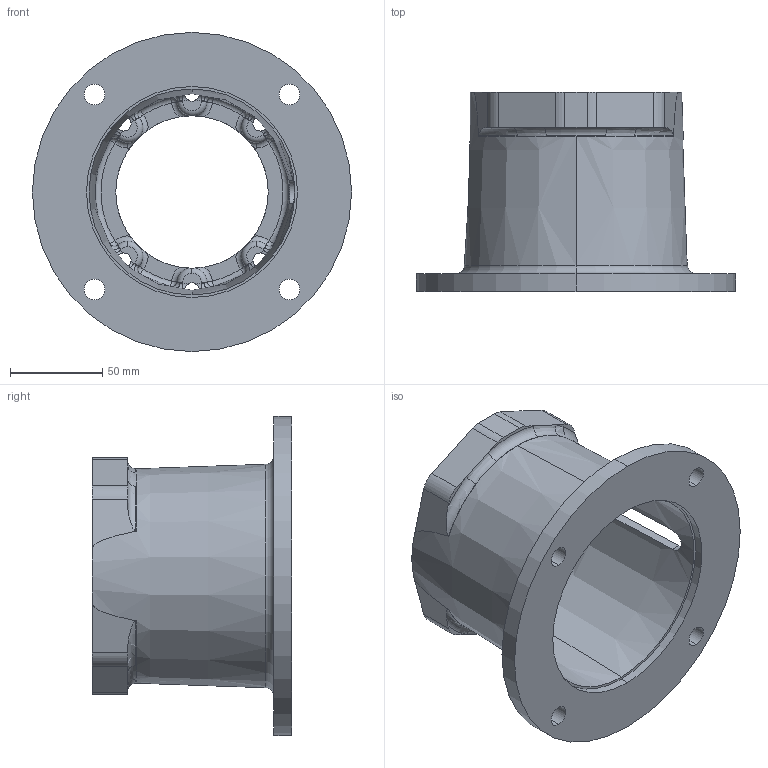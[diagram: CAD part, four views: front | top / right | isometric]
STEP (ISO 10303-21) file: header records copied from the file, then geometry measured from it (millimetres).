
FILE_DESCRIPTION (( 'STEP AP203' ), '1' );
FILE_NAME ('M056422A.STEP', '2007-12-21T20:23:55', ( 'Chris McCoy' ), ( 'Magnaloy Coupling Co' ), 'SwSTEP 2.0', 'SolidWorks 2007', '' );
FILE_SCHEMA (( 'CONFIG_CONTROL_DESIGN' ));
Length unit declared in the file: inch
Products named in the file (1): M056422A
Bounding box: 172.97 x 107.95 x 172.97 mm (x, y, z)
Volume: 354909.5 mm3; surface area: 116567.9 mm2
Topology: 1 solids, 1 shells, 233 faces, 617 edges, 370 vertices
Faces by surface type: torus 61, cylinder 55, bspline 40, plane 34, sphere 24, cone 19
Entity records: 9617 total; most frequent: CARTESIAN_POINT 3968, ORIENTED_EDGE 1210, DIRECTION 1198, EDGE_CURVE 605, AXIS2_PLACEMENT_3D 552, VERTEX_POINT 370, CIRCLE 358, EDGE_LOOP 253
